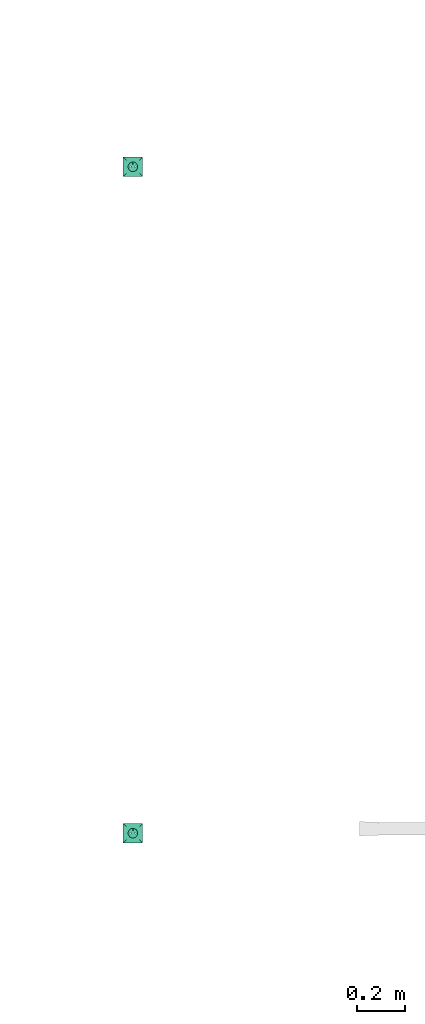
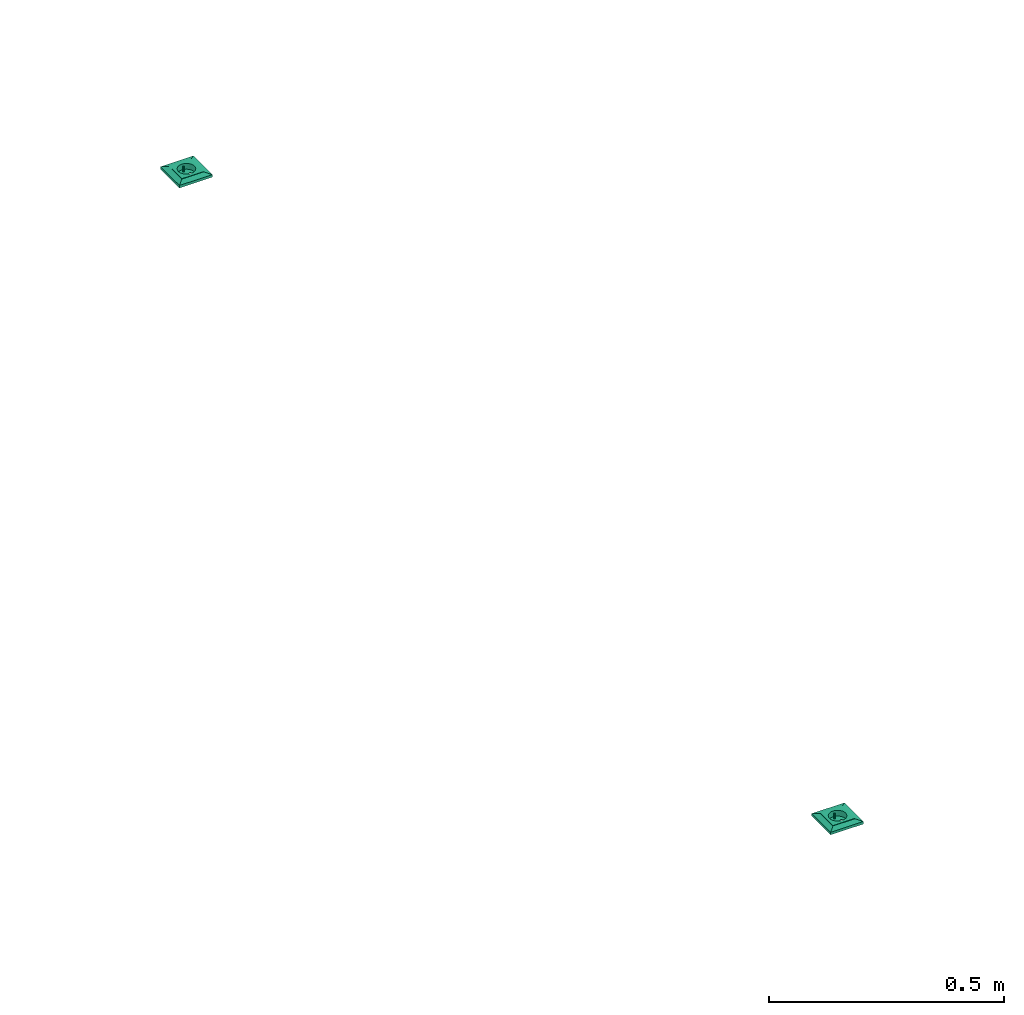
# One storey, part 48 of 153: 2 flow terminals.
"""IFC2X3 building model written with IfcOpenShell, lengths in metres."""

from ifc_helpers import new_model, entity, si_unit, converted_unit, derived_unit, direction, frame, origin, place, context, subcontext, project, spatial, face_set, surface_model, source, transform, mapped, type_object, type_shapes, element, save


model = new_model("IFC2X3")

# Units and contexts
model_context = context("Model", 3, precision=1e-05, world=origin(), true_north=direction((6.12303176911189e-17, 1.0)))
body_context = subcontext(model_context, "Body", "Model", "MODEL_VIEW")
ifc_project = project(units=[si_unit("LENGTHUNIT", "METRE"), si_unit("AREAUNIT", "SQUARE_METRE"), si_unit("VOLUMEUNIT", "CUBIC_METRE"), converted_unit("PLANEANGLEUNIT", "DEGREE", entity("IfcRatioMeasure", 0.0174532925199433), si_unit("PLANEANGLEUNIT", "RADIAN"), dimensions=[0, 0, 0, 0, 0, 0, 0]), si_unit("MASSUNIT", "GRAM", prefix="KILO"), derived_unit("MASSDENSITYUNIT", [(si_unit("MASSUNIT", "GRAM", prefix="KILO"), 1), (si_unit("LENGTHUNIT", "METRE"), -3)]), si_unit("TIMEUNIT", "SECOND"), si_unit("FREQUENCYUNIT", "HERTZ"), si_unit("THERMODYNAMICTEMPERATUREUNIT", "DEGREE_CELSIUS"), derived_unit("THERMALTRANSMITTANCEUNIT", [(si_unit("MASSUNIT", "GRAM", prefix="KILO"), 1), (si_unit("THERMODYNAMICTEMPERATUREUNIT", "KELVIN"), -1), (si_unit("TIMEUNIT", "SECOND"), -3)]), derived_unit("VOLUMETRICFLOWRATEUNIT", [(si_unit("LENGTHUNIT", "METRE"), 3), (si_unit("TIMEUNIT", "SECOND"), -1)]), si_unit("ELECTRICCURRENTUNIT", "AMPERE"), si_unit("ELECTRICVOLTAGEUNIT", "VOLT"), si_unit("POWERUNIT", "WATT"), si_unit("FORCEUNIT", "NEWTON"), si_unit("ILLUMINANCEUNIT", "LUX"), si_unit("LUMINOUSFLUXUNIT", "LUMEN"), si_unit("LUMINOUSINTENSITYUNIT", "CANDELA"), derived_unit("USERDEFINED", [(si_unit("MASSUNIT", "GRAM", prefix="KILO"), -1), (si_unit("LENGTHUNIT", "METRE"), -2), (si_unit("TIMEUNIT", "SECOND"), 3), (si_unit("LUMINOUSFLUXUNIT", "LUMEN"), 1)]), derived_unit("LINEARVELOCITYUNIT", [(si_unit("LENGTHUNIT", "METRE"), 1), (si_unit("TIMEUNIT", "SECOND"), -1)]), si_unit("PRESSUREUNIT", "PASCAL"), derived_unit("USERDEFINED", [(si_unit("LENGTHUNIT", "METRE"), -2), (si_unit("MASSUNIT", "GRAM", prefix="KILO"), 1), (si_unit("TIMEUNIT", "SECOND"), -2)])], contexts=[model_context])

# Site, building, storey
site_placement = place(None, origin())
site = spatial("IfcSite", under=ifc_project, at=site_placement, Name="Default", CompositionType="ELEMENT")
building_placement = place(site_placement, origin())
building = spatial("IfcBuilding", under=site, at=building_placement, CompositionType="ELEMENT")
storey_placement = place(building_placement, frame((0.0, 0.0, -4.62)))
storey = spatial("IfcBuildingStorey", under=building, at=storey_placement, Name="S02", CompositionType="ELEMENT", Elevation=-4.62)

# Flow terminals
light_fixture_type = type_object("IfcLightFixtureType", Name="PC IP55", PredefinedType="NOTDEFINED")
shared_shape = source(origin(), body_context, "Body", "SurfaceModel", [
    surface_model("IfcFaceBasedSurfaceModel", [(-0.00225000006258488, 0.0127499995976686, 0.00949633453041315), (0.0, 0.0104999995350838, 0.00949633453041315), (0.0, 0.0115376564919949, 0.0101656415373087), (0.0, 0.0139623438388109, 0.0101656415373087), (0.0, 0.0144589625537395, 0.00984531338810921), (0.0, 0.0121178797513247, 0.0102778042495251), (0.0, 0.0133821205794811, 0.0102778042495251), (0.0, 0.0127499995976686, 0.010399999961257), (0.0, 0.0149999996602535, 0.00949633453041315), (0.00225000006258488, 0.0127499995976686, 0.00949633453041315), (0.0, 0.0110410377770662, 0.00984531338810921), (0.0, 0.0127499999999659, 0.00949633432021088), (0.00225000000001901, 0.0127499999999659, 0.00949633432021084), (0.00217333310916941, 0.0121676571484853, 0.00949633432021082), (0.00194855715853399, 0.0116249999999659, 0.00949633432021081), (0.00159099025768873, 0.0111590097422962, 0.00949633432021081), (0.001125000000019, 0.010801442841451, 0.00949633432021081), (0.00058234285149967, 0.0105766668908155, 0.00949633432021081), (0.0, 0.0104999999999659, 0.00949633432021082), (-0.000582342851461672, 0.0105766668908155, 0.00949633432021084), (-0.001124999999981, 0.010801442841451, 0.00949633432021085), (-0.00159099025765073, 0.0111590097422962, 0.00949633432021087), (-0.00194855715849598, 0.011624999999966, 0.00949633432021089), (-0.0021733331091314, 0.0121676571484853, 0.00949633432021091), (-0.00224999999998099, 0.012749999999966, 0.00949633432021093), (-0.00217333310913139, 0.0133323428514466, 0.00949633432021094), (-0.00194855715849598, 0.013874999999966, 0.00949633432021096), (-0.00159099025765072, 0.0143409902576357, 0.00949633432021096), (-0.00112499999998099, 0.0146985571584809, 0.00949633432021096), (-0.00058234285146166, 0.0149233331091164, 0.00949633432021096), (0.0, 0.0149999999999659, 0.00949633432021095), (0.000582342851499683, 0.0149233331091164, 0.00949633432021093), (0.00112500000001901, 0.0146985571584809, 0.00949633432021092), (0.00159099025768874, 0.0143409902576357, 0.00949633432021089), (0.001948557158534, 0.0138749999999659, 0.00949633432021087), (0.00217333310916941, 0.0133323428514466, 0.00949633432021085), (0.00225000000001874, 0.0127499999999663, -0.00360000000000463), (0.00217333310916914, 0.0121676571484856, -0.00360000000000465), (0.00194855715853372, 0.0116249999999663, -0.00360000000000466), (0.00159099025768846, 0.0111590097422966, -0.00360000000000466), (0.00112500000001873, 0.0108014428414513, -0.00360000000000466), (0.000582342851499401, 0.0105766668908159, -0.00360000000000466), (0.0, 0.0104999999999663, -0.00360000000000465), (-0.000582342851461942, 0.0105766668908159, -0.00360000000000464), (-0.00112499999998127, 0.0108014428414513, -0.00360000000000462), (-0.001590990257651, 0.0111590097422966, -0.0036000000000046), (-0.00194855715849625, 0.0116249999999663, -0.00360000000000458), (-0.00217333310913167, 0.0121676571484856, -0.00360000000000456), (-0.00224999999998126, 0.0127499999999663, -0.00360000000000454), (-0.00217333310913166, 0.013332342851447, -0.00360000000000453), (-0.00194855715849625, 0.0138749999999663, -0.00360000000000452), (-0.00159099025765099, 0.014340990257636, -0.00360000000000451), (-0.00112499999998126, 0.0146985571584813, -0.00360000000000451), (-0.000582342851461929, 0.0149233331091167, -0.00360000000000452), (0.0, 0.0149999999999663, -0.00360000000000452), (0.000582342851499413, 0.0149233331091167, -0.00360000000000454), (0.00112500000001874, 0.0146985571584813, -0.00360000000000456), (0.00159099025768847, 0.014340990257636, -0.00360000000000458), (0.00194855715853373, 0.0138749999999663, -0.0036000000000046), (0.00217333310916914, 0.013332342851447, -0.00360000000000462), (0.0270000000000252, 0.026999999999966, 0.0113999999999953), (-0.0269999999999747, 0.026999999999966, 0.0113999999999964), (-0.0269999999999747, -0.0270000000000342, 0.0113999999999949), (0.0270000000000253, -0.0270000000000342, 0.0113999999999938), (-0.0199999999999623, 0.0, 0.0113999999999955), (-0.0193185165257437, -0.00517638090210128, 0.0113999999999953), (-0.0173205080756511, -0.0100000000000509, 0.0113999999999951), (-0.0141421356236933, -0.0141421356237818, 0.011399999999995), (-0.00999999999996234, -0.0173205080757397, 0.0113999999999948), (-0.00517638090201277, -0.0193185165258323, 0.0113999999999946), (0.0, -0.0200000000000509, 0.0113999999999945), (0.00517638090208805, -0.0193185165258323, 0.0113999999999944), (0.0100000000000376, -0.0173205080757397, 0.0113999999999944), (0.0141421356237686, -0.0141421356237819, 0.0113999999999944), (0.0173205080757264, -0.010000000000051, 0.0113999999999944), (0.0193185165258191, -0.00517638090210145, 0.0113999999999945), (0.0200000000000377, 0.0, 0.0113999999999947), (0.0193185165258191, 0.00517638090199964, 0.0113999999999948), (0.0173205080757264, 0.0099999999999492, 0.011399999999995), (0.0141421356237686, 0.0141421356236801, 0.0113999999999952), (0.0100000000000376, 0.0173205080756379, 0.0113999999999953), (0.00517638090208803, 0.0193185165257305, 0.0113999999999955), (0.0, 0.0199999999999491, 0.0113999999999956), (-0.00517638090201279, 0.0193185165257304, 0.0113999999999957), (-0.00999999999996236, 0.0173205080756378, 0.0113999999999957), (-0.0141421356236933, 0.01414213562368, 0.0113999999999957), (-0.0173205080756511, 0.00999999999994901, 0.0113999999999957), (-0.0193185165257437, 0.00517638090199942, 0.0113999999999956), (0.0270000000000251, 0.0269999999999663, 0.00199999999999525), (0.0270000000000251, -0.0270000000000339, 0.00199999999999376), (-0.0269999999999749, -0.0270000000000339, 0.00199999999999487), (-0.0269999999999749, 0.0269999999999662, 0.00199999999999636), (0.0210000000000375, 0.0, 0.00199999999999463), (0.0202844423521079, -0.00543519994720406, 0.00199999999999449), (0.0181865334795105, -0.0105000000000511, 0.0019999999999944), (0.0148492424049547, -0.0148492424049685, 0.00199999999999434), (0.0105000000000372, -0.0181865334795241, 0.00199999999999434), (0.0054351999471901, -0.0202844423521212, 0.00199999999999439), (0.0, -0.0210000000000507, 0.00199999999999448), (-0.00543519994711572, -0.020284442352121, 0.00199999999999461), (-0.0104999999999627, -0.0181865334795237, 0.00199999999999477), (-0.0148492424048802, -0.014849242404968, 0.00199999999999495), (-0.0181865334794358, -0.0105000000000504, 0.00199999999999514), (-0.020284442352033, -0.00543519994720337, 0.00199999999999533), (-0.0209999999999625, 0.0, 0.00199999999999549), (-0.0202844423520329, 0.0054351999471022, 0.00199999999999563), (-0.0181865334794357, 0.0104999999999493, 0.00199999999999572), (-0.01484924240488, 0.0148492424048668, 0.00199999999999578), (-0.0104999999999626, 0.0181865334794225, 0.00199999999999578), (-0.00543519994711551, 0.0202844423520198, 0.00199999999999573), (0.0, 0.0209999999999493, 0.00199999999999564), (0.00543519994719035, 0.0202844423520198, 0.00199999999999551), (0.0105000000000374, 0.0181865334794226, 0.00199999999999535), (0.0148492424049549, 0.0148492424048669, 0.00199999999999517), (0.0181865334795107, 0.0104999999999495, 0.00199999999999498), (0.0202844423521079, 0.00543519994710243, 0.00199999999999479), (0.0200000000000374, 0.0, -0.00360000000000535), (0.0193185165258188, -0.00517638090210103, -0.00360000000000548), (0.0173205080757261, -0.0100000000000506, -0.00360000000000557), (0.0141421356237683, -0.0141421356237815, -0.00360000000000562), (0.0100000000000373, -0.0173205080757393, -0.00360000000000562), (0.00517638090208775, -0.0193185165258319, -0.00360000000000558), (0.0, -0.0200000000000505, -0.00360000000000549), (-0.00517638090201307, -0.0193185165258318, -0.00360000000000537), (-0.00999999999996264, -0.0173205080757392, -0.00360000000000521), (-0.0141421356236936, -0.0141421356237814, -0.00360000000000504), (-0.0173205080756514, -0.0100000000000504, -0.00360000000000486), (-0.019318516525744, -0.00517638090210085, -0.00360000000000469), (-0.0199999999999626, 0.0, -0.00360000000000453), (-0.0193185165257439, 0.00517638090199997, -0.0036000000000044), (-0.0173205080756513, 0.00999999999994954, -0.00360000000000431), (-0.0141421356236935, 0.0141421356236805, -0.00360000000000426), (-0.00999999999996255, 0.0173205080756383, -0.00360000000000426), (-0.00517638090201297, 0.0193185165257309, -0.0036000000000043), (0.0, 0.0199999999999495, -0.00360000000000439), (0.00517638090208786, 0.0193185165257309, -0.00360000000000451), (0.0100000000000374, 0.0173205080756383, -0.00360000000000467), (0.0141421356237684, 0.0141421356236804, -0.00360000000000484), (0.0173205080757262, 0.0099999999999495, -0.00360000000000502), (0.0193185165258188, 0.00517638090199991, -0.00360000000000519), (-0.0123499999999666, 0.0, -0.00360000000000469), (-0.0122562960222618, -0.000711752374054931, -0.00360000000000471), (-0.0119815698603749, -0.00137500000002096, -0.00360000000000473), (-0.0115445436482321, -0.00194454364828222, -0.00360000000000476), (-0.0109749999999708, -0.00238156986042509, -0.00360000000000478), (-0.0103117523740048, -0.00265629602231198, -0.0036000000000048), (-0.00959999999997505, -0.00275000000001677, -0.00360000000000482), (-0.0088882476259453, -0.00265629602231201, -0.00360000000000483), (-0.00822499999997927, -0.00238156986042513, -0.00360000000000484), (-0.00765545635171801, -0.00194454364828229, -0.00360000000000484), (-0.00721843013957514, -0.00137500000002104, -0.00360000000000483), (-0.00694370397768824, -0.000711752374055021, -0.00360000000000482), (-0.00684999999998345, 0.0, -0.0036000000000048), (-0.00694370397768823, 0.000711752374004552, -0.00360000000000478), (-0.00721843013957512, 0.00137499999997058, -0.00360000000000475), (-0.00765545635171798, 0.00194454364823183, -0.00360000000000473), (-0.00822499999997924, 0.00238156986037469, -0.0036000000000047), (-0.00888824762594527, 0.00265629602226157, -0.00360000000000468), (-0.00959999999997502, 0.00274999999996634, -0.00360000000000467), (-0.0103117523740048, 0.00265629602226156, -0.00360000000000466), (-0.0109749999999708, 0.00238156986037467, -0.00360000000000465), (-0.011544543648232, 0.00194454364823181, -0.00360000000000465), (-0.0119815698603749, 0.00137499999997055, -0.00360000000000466), (-0.0122562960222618, 0.000711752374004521, -0.00360000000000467), (0.00685000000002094, 0.0, -0.00360000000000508), (0.0069437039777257, -0.00071175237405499, -0.0036000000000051), (0.00721843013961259, -0.00137500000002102, -0.00360000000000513), (0.00765545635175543, -0.00194454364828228, -0.00360000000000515), (0.00822500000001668, -0.00238156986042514, -0.00360000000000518), (0.00888824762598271, -0.00265629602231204, -0.0036000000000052), (0.00960000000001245, -0.00275000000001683, -0.00360000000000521), (0.0103117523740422, -0.00265629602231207, -0.00360000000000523), (0.0109750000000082, -0.00238156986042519, -0.00360000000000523), (0.0115445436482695, -0.00194454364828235, -0.00360000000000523), (0.0119815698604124, -0.0013750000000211, -0.00360000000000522), (0.0122562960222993, -0.00071175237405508, -0.00360000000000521), (0.012350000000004, 0.0, -0.00360000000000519), (0.0122562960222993, 0.000711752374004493, -0.00360000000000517), (0.0119815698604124, 0.00137499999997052, -0.00360000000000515), (0.0115445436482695, 0.00194454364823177, -0.00360000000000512), (0.0109750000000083, 0.00238156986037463, -0.0036000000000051), (0.0103117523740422, 0.00265629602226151, -0.00360000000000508), (0.00960000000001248, 0.00274999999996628, -0.00360000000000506), (0.00888824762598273, 0.0026562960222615, -0.00360000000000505), (0.0082250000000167, 0.00238156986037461, -0.00360000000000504), (0.00765545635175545, 0.00194454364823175, -0.00360000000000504), (0.0072184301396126, 0.00137499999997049, -0.00360000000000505), (0.00694370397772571, 0.000711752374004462, -0.00360000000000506), (0.0210000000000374, 0.0, -0.00460000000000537), (0.0202844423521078, -0.00543519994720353, -0.00460000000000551), (0.0181865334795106, -0.0105000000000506, -0.0046000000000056), (0.0148492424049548, -0.0148492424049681, -0.00460000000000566), (0.0105000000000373, -0.0181865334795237, -0.00460000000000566), (0.00543519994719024, -0.0202844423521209, -0.00460000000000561), (0.0, -0.0210000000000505, -0.00460000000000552), (-0.00543519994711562, -0.0202844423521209, -0.00460000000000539), (-0.0104999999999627, -0.0181865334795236, -0.00460000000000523), (-0.0148492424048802, -0.0148492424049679, -0.00460000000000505), (-0.0181865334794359, -0.0105000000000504, -0.00460000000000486), (-0.0202844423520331, -0.00543519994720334, -0.00460000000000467), (-0.0209999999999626, 0.0, -0.00460000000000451), (-0.020284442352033, 0.00543519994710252, -0.00460000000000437), (-0.0181865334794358, 0.0104999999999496, -0.00460000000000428), (-0.0148492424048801, 0.0148492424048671, -0.00460000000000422), (-0.0104999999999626, 0.0181865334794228, -0.00460000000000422), (-0.00543519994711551, 0.02028444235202, -0.00460000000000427), (0.0, 0.0209999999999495, -0.00460000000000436), (0.00543519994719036, 0.02028444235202, -0.00460000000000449), (0.0105000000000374, 0.0181865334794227, -0.00460000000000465), (0.0148492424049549, 0.014849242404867, -0.00460000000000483), (0.0181865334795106, 0.0104999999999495, -0.00460000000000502), (0.0202844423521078, 0.00543519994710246, -0.00460000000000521), (-0.00684999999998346, 0.0, -0.0046000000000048), (-0.00694370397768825, 0.000711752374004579, -0.00460000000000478), (-0.00721843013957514, 0.00137499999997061, -0.00460000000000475), (-0.007655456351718, 0.00194454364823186, -0.00460000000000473), (-0.00822499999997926, 0.00238156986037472, -0.0046000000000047), (-0.00888824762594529, 0.0026562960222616, -0.00460000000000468), (-0.00959999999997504, 0.00274999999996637, -0.00460000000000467), (-0.0103117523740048, 0.00265629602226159, -0.00460000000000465), (-0.0109749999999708, 0.0023815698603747, -0.00460000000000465), (-0.0115445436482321, 0.00194454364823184, -0.00460000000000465), (-0.0119815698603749, 0.00137499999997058, -0.00460000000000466), (-0.0122562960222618, 0.000711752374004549, -0.00460000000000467), (-0.0123499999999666, 0.0, -0.00460000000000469), (-0.0122562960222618, -0.000711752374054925, -0.00460000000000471), (-0.0119815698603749, -0.00137500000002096, -0.00460000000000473), (-0.0115445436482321, -0.00194454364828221, -0.00460000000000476), (-0.0109749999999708, -0.00238156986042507, -0.00460000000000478), (-0.0103117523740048, -0.00265629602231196, -0.0046000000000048), (-0.00959999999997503, -0.00275000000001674, -0.00460000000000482), (-0.00888824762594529, -0.00265629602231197, -0.00460000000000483), (-0.00822499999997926, -0.00238156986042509, -0.00460000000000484), (-0.007655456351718, -0.00194454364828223, -0.00460000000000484), (-0.00721843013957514, -0.00137500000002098, -0.00460000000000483), (-0.00694370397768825, -0.000711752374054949, -0.00460000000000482), (0.012350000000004, 0.0, -0.00460000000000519), (0.0122562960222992, 0.000711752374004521, -0.00460000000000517), (0.0119815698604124, 0.00137499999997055, -0.00460000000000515), (0.0115445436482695, 0.0019445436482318, -0.00460000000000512), (0.0109750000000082, 0.00238156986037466, -0.0046000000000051), (0.0103117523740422, 0.00265629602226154, -0.00460000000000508), (0.00960000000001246, 0.00274999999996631, -0.00460000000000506), (0.00888824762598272, 0.00265629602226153, -0.00460000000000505), (0.00822500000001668, 0.00238156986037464, -0.00460000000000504), (0.00765545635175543, 0.00194454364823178, -0.00460000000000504), (0.00721843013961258, 0.00137499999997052, -0.00460000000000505), (0.00694370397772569, 0.00071175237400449, -0.00460000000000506), (0.00685000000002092, 0.0, -0.00460000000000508), (0.00694370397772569, -0.000711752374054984, -0.0046000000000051), (0.00721843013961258, -0.00137500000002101, -0.00460000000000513), (0.00765545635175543, -0.00194454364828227, -0.00460000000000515), (0.00822500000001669, -0.00238156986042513, -0.00460000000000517), (0.00888824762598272, -0.00265629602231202, -0.0046000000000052), (0.00960000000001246, -0.0027500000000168, -0.00460000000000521), (0.0103117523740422, -0.00265629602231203, -0.00460000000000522), (0.0109750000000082, -0.00238156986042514, -0.00460000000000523), (0.0115445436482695, -0.00194454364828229, -0.00460000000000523), (0.0119815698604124, -0.00137500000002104, -0.00460000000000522), (0.0122562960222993, -0.000711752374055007, -0.00460000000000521), (0.040350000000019, 0.0403499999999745, 0.00659999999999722), (0.040350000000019, -0.0403500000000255, 0.00659999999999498), (-0.0403499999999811, -0.0403500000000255, 0.00659999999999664), (-0.0403499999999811, 0.0403499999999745, 0.00659999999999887), (0.027000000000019, 0.0269999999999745, 0.00659999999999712), (-0.0269999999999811, 0.0269999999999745, 0.00659999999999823), (-0.026999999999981, -0.0270000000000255, 0.00659999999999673), (0.027000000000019, -0.0270000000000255, 0.00659999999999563), (0.027000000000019, 0.0269999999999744, 0.0103999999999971), (-0.026999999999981, 0.0269999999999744, 0.0103999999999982), (-0.026999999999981, -0.0270000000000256, 0.0103999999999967), (0.027000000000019, -0.0270000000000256, 0.0103999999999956), (0.040350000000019, 0.0403499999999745, 0.00659999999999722), (0.040350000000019, -0.0403500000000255, 0.00659999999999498), (-0.0403499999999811, -0.0403500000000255, 0.00659999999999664), (-0.0403499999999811, 0.0403499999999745, 0.00659999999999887), (-0.0269999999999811, 0.0269999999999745, 0.00659999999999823), (-0.0269999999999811, -0.0270000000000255, 0.00659999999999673), (0.0270000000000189, -0.0270000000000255, 0.00659999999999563), (0.0270000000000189, 0.0269999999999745, 0.00659999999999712), (0.0403500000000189, 0.0403499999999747, 0.0), (0.0403500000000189, -0.0403500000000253, 0.0), (-0.0403499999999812, -0.0403500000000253, 0.0), (-0.0403499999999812, 0.0403499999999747, 0.0), (0.0270000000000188, 0.0269999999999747, 0.0), (-0.0269999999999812, 0.0269999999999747, 0.0), (-0.0269999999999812, -0.0270000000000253, 0.0), (0.0270000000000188, -0.0270000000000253, 0.0)], [face_set([[[0, 1, 2]], [[3, 4, 2, 5]], [[6, 3, 5, 7]], [[2, 4, 0]], [[4, 8, 0]], [[3, 9, 8]], [[1, 9, 10]], [[2, 3, 6, 7]], [[3, 10, 9]], [[2, 10, 3]], [[11, 1, 0, 8]], [[11, 8, 9, 1]]]), face_set([[[12, 13, 14, 15, 16, 17, 18, 19, 20, 21, 22, 23, 24, 25, 26, 27, 28, 29, 30, 31, 32, 33, 34, 35]], [[36, 37, 38, 39, 40, 41, 42, 43, 44, 45, 46, 47, 48, 49, 50, 51, 52, 53, 54, 55, 56, 57, 58, 59]], [[48, 47, 23, 24]], [[47, 46, 22, 23]], [[45, 44, 20, 21]], [[46, 45, 21, 22]], [[44, 43, 19, 20]], [[18, 19, 43, 42]], [[42, 41, 17, 18]], [[41, 40, 16, 17]], [[39, 38, 14, 15]], [[40, 39, 15, 16]], [[38, 37, 13, 14]], [[12, 13, 37, 36]], [[36, 59, 35, 12]], [[59, 58, 34, 35]], [[57, 56, 32, 33]], [[58, 57, 33, 34]], [[56, 55, 31, 32]], [[30, 31, 55, 54]], [[54, 53, 29, 30]], [[53, 52, 28, 29]], [[51, 50, 26, 27]], [[52, 51, 27, 28]], [[50, 49, 25, 26]], [[24, 25, 49, 48]]]), face_set([[[60, 61, 62, 63], [64, 65, 66, 67, 68, 69, 70, 71, 72, 73, 74, 75, 76, 77, 78, 79, 80, 81, 82, 83, 84, 85, 86, 87]], [[88, 89, 90, 91], [92, 93, 94, 95, 96, 97, 98, 99, 100, 101, 102, 103, 104, 105, 106, 107, 108, 109, 110, 111, 112, 113, 114, 115]], [[61, 60, 88, 91]], [[62, 61, 91, 90]], [[63, 62, 90, 89]], [[60, 63, 89, 88]], [[116, 117, 118, 119, 120, 121, 122, 123, 124, 125, 126, 127, 128, 129, 130, 131, 132, 133, 134, 135, 136, 137, 138, 139], [140, 141, 142, 143, 144, 145, 146, 147, 148, 149, 150, 151, 152, 153, 154, 155, 156, 157, 158, 159, 160, 161, 162, 163], [164, 165, 166, 167, 168, 169, 170, 171, 172, 173, 174, 175, 176, 177, 178, 179, 180, 181, 182, 183, 184, 185, 186, 187]], [[64, 128, 127, 65]], [[65, 127, 126, 66]], [[67, 125, 124, 68]], [[66, 126, 125, 67]], [[68, 124, 123, 69]], [[122, 70, 69, 123]], [[70, 122, 121, 71]], [[71, 121, 120, 72]], [[73, 119, 118, 74]], [[72, 120, 119, 73]], [[74, 118, 117, 75]], [[116, 76, 75, 117]], [[76, 116, 139, 77]], [[77, 139, 138, 78]], [[79, 137, 136, 80]], [[78, 138, 137, 79]], [[80, 136, 135, 81]], [[134, 82, 81, 135]], [[82, 134, 133, 83]], [[83, 133, 132, 84]], [[84, 132, 131, 85]], [[85, 131, 130, 86]], [[130, 129, 87, 86]], [[64, 87, 129, 128]], [[188, 189, 190, 191, 192, 193, 194, 195, 196, 197, 198, 199, 200, 201, 202, 203, 204, 205, 206, 207, 208, 209, 210, 211], [212, 213, 214, 215, 216, 217, 218, 219, 220, 221, 222, 223, 224, 225, 226, 227, 228, 229, 230, 231, 232, 233, 234, 235], [236, 237, 238, 239, 240, 241, 242, 243, 244, 245, 246, 247, 248, 249, 250, 251, 252, 253, 254, 255, 256, 257, 258, 259]], [[200, 199, 103, 104]], [[199, 198, 102, 103]], [[197, 196, 100, 101]], [[198, 197, 101, 102]], [[196, 195, 99, 100]], [[98, 99, 195, 194]], [[194, 193, 97, 98]], [[193, 192, 96, 97]], [[191, 190, 94, 95]], [[192, 191, 95, 96]], [[190, 189, 93, 94]], [[92, 93, 189, 188]], [[188, 211, 115, 92]], [[211, 210, 114, 115]], [[209, 208, 112, 113]], [[210, 209, 113, 114]], [[208, 207, 111, 112]], [[110, 111, 207, 206]], [[206, 205, 109, 110]], [[205, 204, 108, 109]], [[203, 202, 106, 107]], [[204, 203, 107, 108]], [[202, 201, 105, 106]], [[104, 105, 201, 200]], [[141, 225, 226, 142]], [[140, 224, 225, 141]], [[144, 228, 229, 145]], [[143, 227, 228, 144]], [[142, 226, 227, 143]], [[230, 146, 145, 229]], [[149, 233, 232, 148]], [[148, 232, 231, 147]], [[152, 212, 235, 151]], [[151, 235, 234, 150]], [[150, 234, 233, 149]], [[146, 230, 231, 147]], [[154, 214, 213, 153]], [[153, 213, 212, 152]], [[157, 217, 216, 156]], [[156, 216, 215, 155]], [[155, 215, 214, 154]], [[218, 158, 157, 217]], [[160, 220, 221, 161]], [[159, 219, 220, 160]], [[163, 223, 224, 140]], [[162, 222, 223, 163]], [[161, 221, 222, 162]], [[158, 218, 219, 159]], [[166, 250, 249, 165]], [[165, 249, 248, 164]], [[169, 253, 252, 168]], [[168, 252, 251, 167]], [[167, 251, 250, 166]], [[254, 170, 169, 253]], [[172, 256, 257, 173]], [[171, 255, 256, 172]], [[175, 259, 236, 176]], [[174, 258, 259, 175]], [[173, 257, 258, 174]], [[170, 254, 255, 171]], [[177, 237, 238, 178]], [[176, 236, 237, 177]], [[180, 240, 241, 181]], [[179, 239, 240, 180]], [[178, 238, 239, 179]], [[242, 182, 181, 241]], [[185, 245, 244, 184]], [[184, 244, 243, 183]], [[164, 248, 247, 187]], [[187, 247, 246, 186]], [[186, 246, 245, 185]], [[182, 242, 243, 183]]]), face_set([[[260, 261, 262, 263], [264, 265, 266, 267]], [[260, 268, 269, 263]], [[263, 269, 270, 262]], [[262, 270, 271, 261]], [[261, 271, 268, 260]], [[264, 265, 269, 268]], [[265, 266, 270, 269]], [[266, 267, 271, 270]], [[268, 271, 267, 264]]]), face_set([[[272, 273, 274, 275], [276, 277, 278, 279]], [[280, 281, 282, 283], [284, 285, 286, 287]], [[275, 272, 280, 283]], [[274, 275, 283, 282]], [[273, 274, 282, 281]], [[272, 273, 281, 280]], [[284, 285, 276, 279]], [[285, 286, 277, 276]], [[286, 287, 278, 277]], [[279, 278, 287, 284]]])]),
])
type_shapes(light_fixture_type, [shared_shape])
for number, where in (
    (1, (25.8960562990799, -185.028864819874, 12.45)),
    (2, (25.8960562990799, -187.804864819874, 12.45)),
):
    element("IfcFlowTerminal", number, at=place(storey_placement, frame(where)), inside=storey, type_object=light_fixture_type, Name="INT Prise de courant:PC IP55", ObjectType="INT Prise de courant:PC IP55", context=body_context, shape_type="MappedRepresentation", body=[
        mapped(shared_shape, transform((0.0, 0.0, 0.0), scale=1.0)),
    ])

save(model, "model.ifc")
